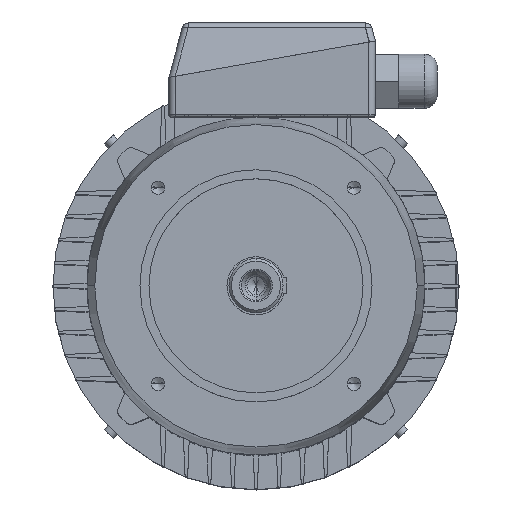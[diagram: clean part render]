
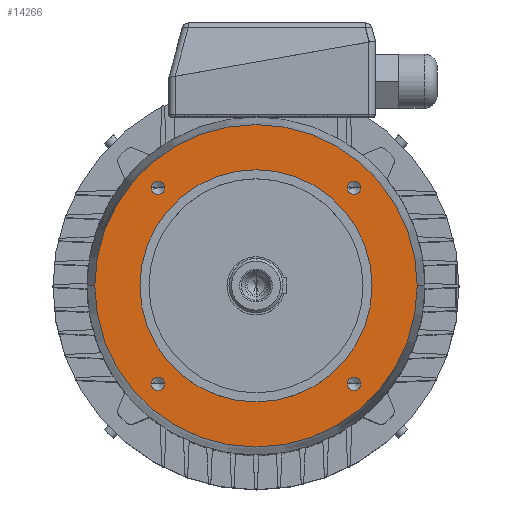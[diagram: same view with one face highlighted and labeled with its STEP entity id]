
A CAD part, top view. The second image highlights one B-rep face of the part: STEP entity #14266.
In plain terms, the highlighted planar face has unit normal (0, 0, 1).
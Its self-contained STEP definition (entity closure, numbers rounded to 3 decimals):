
#232 = EDGE_CURVE ( 'NONE', #4150, #2474, #927, .T. ) ;
#927 = CIRCLE ( 'NONE', #928, 5.1 ) ;
#928 = AXIS2_PLACEMENT_3D ( 'NONE', #929, #930, #931 ) ;
#929 = CARTESIAN_POINT ( 'NONE',  ( -76.014, -76.014, 75. ) ) ;
#930 = DIRECTION ( 'NONE',  ( 0., 0., 1. ) ) ;
#931 = DIRECTION ( 'NONE',  ( 1., 0., 0. ) ) ;
#17457 = VERTEX_POINT ( 'NONE', #14956 ) ;
#1506 = EDGE_LOOP ( 'NONE', ( #18673, #12634 ) ) ;
#18029 = EDGE_CURVE ( 'NONE', #17457, #15696, #15635, .T. ) ;
#1739 = ORIENTED_EDGE ( 'NONE', *, *, #4303, .F. ) ;
#18154 = VERTEX_POINT ( 'NONE', #16038 ) ;
#18213 = EDGE_LOOP ( 'NONE', ( #3995, #1739 ) ) ;
#18239 = EDGE_CURVE ( 'NONE', #15565, #18154, #16339, .T. ) ;
#18266 = ORIENTED_EDGE ( 'NONE', *, *, #11680, .F. ) ;
#1917 = ORIENTED_EDGE ( 'NONE', *, *, #16069, .F. ) ;
#18565 = EDGE_LOOP ( 'NONE', ( #7752, #12192 ) ) ;
#18673 = ORIENTED_EDGE ( 'NONE', *, *, #18239, .F. ) ;
#2321 = EDGE_LOOP ( 'NONE', ( #1917, #18266 ) ) ;
#2345 = EDGE_CURVE ( 'NONE', #15493, #13025, #2586, .T. ) ;
#2474 = VERTEX_POINT ( 'NONE', #2671 ) ;
#2586 = CIRCLE ( 'NONE', #2587, 125. ) ;
#2587 = AXIS2_PLACEMENT_3D ( 'NONE', #2588, #2589, #2590 ) ;
#2588 = CARTESIAN_POINT ( 'NONE',  ( 0., 0., 75. ) ) ;
#2589 = DIRECTION ( 'NONE',  ( 0., 0., 1. ) ) ;
#2590 = DIRECTION ( 'NONE',  ( 1., 0., 0. ) ) ;
#2671 = CARTESIAN_POINT ( 'NONE',  ( -81.114, -76.014, 75. ) ) ;
#3995 = ORIENTED_EDGE ( 'NONE', *, *, #232, .F. ) ;
#3996 = CARTESIAN_POINT ( 'NONE',  ( -70.914, -76.014, 75. ) ) ;
#4084 = CIRCLE ( 'NONE', #4085, 5.1 ) ;
#4085 = AXIS2_PLACEMENT_3D ( 'NONE', #4086, #4087, #4088 ) ;
#4086 = CARTESIAN_POINT ( 'NONE',  ( -76.014, -76.014, 75. ) ) ;
#4087 = DIRECTION ( 'NONE',  ( 0., 0., 1. ) ) ;
#4088 = DIRECTION ( 'NONE',  ( 1., 0., 0. ) ) ;
#4150 = VERTEX_POINT ( 'NONE', #3996 ) ;
#4196 = ORIENTED_EDGE ( 'NONE', *, *, #12431, .F. ) ;
#4303 = EDGE_CURVE ( 'NONE', #2474, #4150, #4084, .T. ) ;
#6064 = EDGE_LOOP ( 'NONE', ( #14976, #15196 ) ) ;
#6582 = CARTESIAN_POINT ( 'NONE',  ( 70.914, 76.014, 75. ) ) ;
#7595 = VERTEX_POINT ( 'NONE', #6582 ) ;
#7752 = ORIENTED_EDGE ( 'NONE', *, *, #13294, .T. ) ;
#8086 = CIRCLE ( 'NONE', #8087, 5.1 ) ;
#8087 = AXIS2_PLACEMENT_3D ( 'NONE', #8088, #8089, #8090 ) ;
#8088 = CARTESIAN_POINT ( 'NONE',  ( 76.014, -76.014, 75. ) ) ;
#8089 = DIRECTION ( 'NONE',  ( 0., 0., 1. ) ) ;
#8090 = DIRECTION ( 'NONE',  ( 1., 0., 0. ) ) ;
#9411 = EDGE_CURVE ( 'NONE', #15696, #17457, #8086, .T. ) ;
#10439 = CARTESIAN_POINT ( 'NONE',  ( 81.114, 76.014, 75. ) ) ;
#10614 = CIRCLE ( 'NONE', #10621, 5.1 ) ;
#10621 = AXIS2_PLACEMENT_3D ( 'NONE', #10622, #10623, #10624 ) ;
#10622 = CARTESIAN_POINT ( 'NONE',  ( 76.014, 76.014, 75. ) ) ;
#10623 = DIRECTION ( 'NONE',  ( 0., 0., 1. ) ) ;
#10624 = DIRECTION ( 'NONE',  ( 1., 0., 0. ) ) ;
#11052 = CIRCLE ( 'NONE', #11053, 5.1 ) ;
#11053 = AXIS2_PLACEMENT_3D ( 'NONE', #11054, #11055, #11056 ) ;
#11054 = CARTESIAN_POINT ( 'NONE',  ( -76.014, 76.014, 75. ) ) ;
#11055 = DIRECTION ( 'NONE',  ( 0., 0., 1. ) ) ;
#11056 = DIRECTION ( 'NONE',  ( 1., 0., 0. ) ) ;
#11155 = CARTESIAN_POINT ( 'NONE',  ( -70.914, 76.014, 75. ) ) ;
#11353 = CIRCLE ( 'NONE', #11360, 5.1 ) ;
#11360 = AXIS2_PLACEMENT_3D ( 'NONE', #11361, #11362, #11363 ) ;
#11361 = CARTESIAN_POINT ( 'NONE',  ( -76.014, 76.014, 75. ) ) ;
#11362 = DIRECTION ( 'NONE',  ( 0., 0., 1. ) ) ;
#11363 = DIRECTION ( 'NONE',  ( 1., 0., 0. ) ) ;
#11406 = VERTEX_POINT ( 'NONE', #10439 ) ;
#11532 = CARTESIAN_POINT ( 'NONE',  ( 125., 0., 75. ) ) ;
#11673 = CARTESIAN_POINT ( 'NONE',  ( -81.114, 76.014, 75. ) ) ;
#11680 = EDGE_CURVE ( 'NONE', #7595, #11406, #10614, .T. ) ;
#11685 = CIRCLE ( 'NONE', #11686, 125. ) ;
#11686 = AXIS2_PLACEMENT_3D ( 'NONE', #11687, #11688, #11689 ) ;
#11687 = CARTESIAN_POINT ( 'NONE',  ( 0., 0., 75. ) ) ;
#11688 = DIRECTION ( 'NONE',  ( 0., 0., 1. ) ) ;
#11689 = DIRECTION ( 'NONE',  ( 1., 0., 0. ) ) ;
#12009 = ORIENTED_EDGE ( 'NONE', *, *, #12817, .F. ) ;
#12192 = ORIENTED_EDGE ( 'NONE', *, *, #2345, .T. ) ;
#12431 = EDGE_CURVE ( 'NONE', #12587, #13292, #11052, .T. ) ;
#12519 = FACE_BOUND ( 'NONE', #2321, .T. ) ;
#12520 = FACE_BOUND ( 'NONE', #18213, .T. ) ;
#12521 = FACE_BOUND ( 'NONE', #1506, .T. ) ;
#12522 = FACE_OUTER_BOUND ( 'NONE', #18565, .T. ) ;
#12523 = FACE_BOUND ( 'NONE', #6064, .T. ) ;
#12530 = FACE_BOUND ( 'NONE', #14995, .T. ) ;
#12531 = PLANE ( 'NONE',  #12532 ) ;
#12532 = AXIS2_PLACEMENT_3D ( 'NONE', #12533, #12534, #12535 ) ;
#12533 = CARTESIAN_POINT ( 'NONE',  ( 0., 125., 75. ) ) ;
#12534 = DIRECTION ( 'NONE',  ( 0., 0., -1. ) ) ;
#12535 = DIRECTION ( 'NONE',  ( -1., 0., 0. ) ) ;
#12587 = VERTEX_POINT ( 'NONE', #11155 ) ;
#12634 = ORIENTED_EDGE ( 'NONE', *, *, #16353, .F. ) ;
#12817 = EDGE_CURVE ( 'NONE', #13292, #12587, #11353, .T. ) ;
#13025 = VERTEX_POINT ( 'NONE', #11532 ) ;
#13292 = VERTEX_POINT ( 'NONE', #11673 ) ;
#13294 = EDGE_CURVE ( 'NONE', #13025, #15493, #11685, .T. ) ;
#13501 = CARTESIAN_POINT ( 'NONE',  ( -125., 0., 75. ) ) ;
#13558 = CARTESIAN_POINT ( 'NONE',  ( 90., 0., 75. ) ) ;
#13623 = CARTESIAN_POINT ( 'NONE',  ( 81.114, -76.014, 75. ) ) ;
#13890 = CIRCLE ( 'NONE', #13891, 5.1 ) ;
#13891 = AXIS2_PLACEMENT_3D ( 'NONE', #13892, #13893, #13894 ) ;
#13892 = CARTESIAN_POINT ( 'NONE',  ( 76.014, 76.014, 75. ) ) ;
#13893 = DIRECTION ( 'NONE',  ( 0., 0., 1. ) ) ;
#13894 = DIRECTION ( 'NONE',  ( 1., 0., 0. ) ) ;
#14162 = CIRCLE ( 'NONE', #14163, 90. ) ;
#14163 = AXIS2_PLACEMENT_3D ( 'NONE', #14164, #14165, #14166 ) ;
#14164 = CARTESIAN_POINT ( 'NONE',  ( 0., 0., 75. ) ) ;
#14165 = DIRECTION ( 'NONE',  ( 0., 0., 1. ) ) ;
#14166 = DIRECTION ( 'NONE',  ( 1., 0., 0. ) ) ;
#14266 = ADVANCED_FACE ( 'NONE', ( #12519, #12520, #12521, #12522, #12523, #12530 ), #12531, .F. ) ;
#14956 = CARTESIAN_POINT ( 'NONE',  ( 70.914, -76.014, 75. ) ) ;
#14976 = ORIENTED_EDGE ( 'NONE', *, *, #9411, .F. ) ;
#14995 = EDGE_LOOP ( 'NONE', ( #4196, #12009 ) ) ;
#15196 = ORIENTED_EDGE ( 'NONE', *, *, #18029, .F. ) ;
#15493 = VERTEX_POINT ( 'NONE', #13501 ) ;
#15565 = VERTEX_POINT ( 'NONE', #13558 ) ;
#15635 = CIRCLE ( 'NONE', #15636, 5.1 ) ;
#15636 = AXIS2_PLACEMENT_3D ( 'NONE', #15637, #15638, #15639 ) ;
#15637 = CARTESIAN_POINT ( 'NONE',  ( 76.014, -76.014, 75. ) ) ;
#15638 = DIRECTION ( 'NONE',  ( 0., 0., 1. ) ) ;
#15639 = DIRECTION ( 'NONE',  ( 1., 0., 0. ) ) ;
#15696 = VERTEX_POINT ( 'NONE', #13623 ) ;
#16038 = CARTESIAN_POINT ( 'NONE',  ( -90., 0., 75. ) ) ;
#16069 = EDGE_CURVE ( 'NONE', #11406, #7595, #13890, .T. ) ;
#16339 = CIRCLE ( 'NONE', #16340, 90. ) ;
#16340 = AXIS2_PLACEMENT_3D ( 'NONE', #16341, #16342, #16343 ) ;
#16341 = CARTESIAN_POINT ( 'NONE',  ( 0., 0., 75. ) ) ;
#16342 = DIRECTION ( 'NONE',  ( 0., 0., 1. ) ) ;
#16343 = DIRECTION ( 'NONE',  ( 1., 0., 0. ) ) ;
#16353 = EDGE_CURVE ( 'NONE', #18154, #15565, #14162, .T. ) ;
